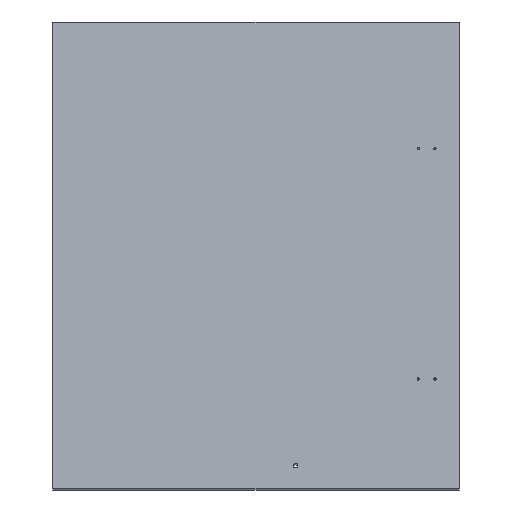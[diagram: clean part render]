
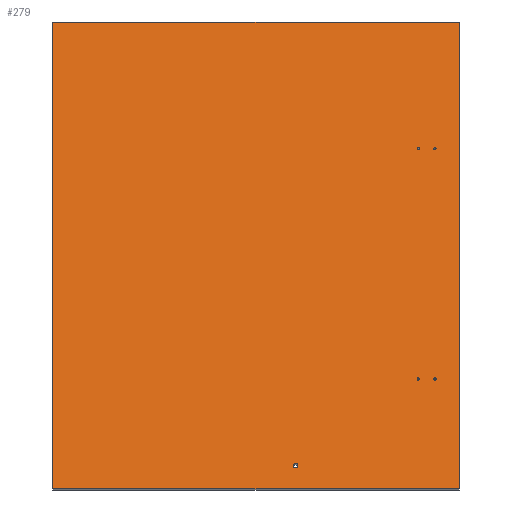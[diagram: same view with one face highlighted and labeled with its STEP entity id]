
A CAD part, front view. The second image highlights one B-rep face of the part: STEP entity #279.
In plain terms, the highlighted planar face has unit normal (0, -0.985, 0.174).
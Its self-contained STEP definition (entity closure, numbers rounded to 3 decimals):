
#37=CARTESIAN_POINT('',(2569.,11.481,244.515));
#38=VERTEX_POINT('',#37);
#45=CARTESIAN_POINT('',(1403.886,11.481,244.515));
#46=VERTEX_POINT('',#45);
#47=CARTESIAN_POINT('',(1403.886,11.481,244.515));
#48=DIRECTION('',(1.0,0.0,0.0));
#49=VECTOR('',#48,1.);
#50=LINE('',#47,#49);
#51=EDGE_CURVE('',#46,#38,#50,.T.);
#75=CARTESIAN_POINT('',(2569.,247.122,1580.899));
#76=VERTEX_POINT('',#75);
#83=CARTESIAN_POINT('',(2569.,11.481,244.515));
#84=DIRECTION('',(0.,0.174,0.985));
#85=VECTOR('',#84,1.);
#86=LINE('',#83,#85);
#87=EDGE_CURVE('',#38,#76,#86,.T.);
#106=CARTESIAN_POINT('',(1403.886,247.122,1580.899));
#107=VERTEX_POINT('',#106);
#114=CARTESIAN_POINT('',(2569.,247.122,1580.899));
#115=DIRECTION('',(-1.0,0.,0.));
#116=VECTOR('',#115,1.);
#117=LINE('',#114,#116);
#118=EDGE_CURVE('',#76,#107,#117,.T.);
#136=CARTESIAN_POINT('',(1403.886,247.122,1580.899));
#137=DIRECTION('',(0.,-0.174,-0.985));
#138=VECTOR('',#137,1.);
#139=LINE('',#136,#138);
#140=EDGE_CURVE('',#107,#46,#139,.T.);
#213=CARTESIAN_POINT('',(1403.886,11.481,244.515));
#214=DIRECTION('',(0.0,-0.985,0.174));
#215=DIRECTION('',(1.0,0.0,0.0));
#216=AXIS2_PLACEMENT_3D('',#213,#214,#215);
#217=PLANE('',#216);
#218=ORIENTED_EDGE('',*,*,#51,.T.);
#219=ORIENTED_EDGE('',*,*,#87,.T.);
#220=ORIENTED_EDGE('',*,*,#118,.T.);
#221=ORIENTED_EDGE('',*,*,#140,.T.);
#222=EDGE_LOOP('',(#218,#219,#220,#221));
#223=FACE_OUTER_BOUND('',#222,.T.);
#224=CARTESIAN_POINT('',(2454.3,66.788,558.176));
#225=VERTEX_POINT('',#224);
#226=CARTESIAN_POINT('',(2451.0,66.788,558.176));
#227=DIRECTION('',(0.0,0.985,-0.174));
#228=DIRECTION('',(1.0,0.0,0.0));
#229=AXIS2_PLACEMENT_3D('',#226,#227,#228);
#230=CIRCLE('',#229,3.3);
#231=EDGE_CURVE('',#225,#225,#230,.T.);
#232=ORIENTED_EDGE('',*,*,#231,.T.);
#233=EDGE_LOOP('',(#232));
#234=FACE_BOUND('',#233,.T.);
#235=CARTESIAN_POINT('',(2454.3,183.132,1217.997));
#236=VERTEX_POINT('',#235);
#237=CARTESIAN_POINT('',(2451.0,183.132,1217.997));
#238=DIRECTION('',(0.0,0.985,-0.174));
#239=DIRECTION('',(1.0,0.0,0.0));
#240=AXIS2_PLACEMENT_3D('',#237,#238,#239);
#241=CIRCLE('',#240,3.3);
#242=EDGE_CURVE('',#236,#236,#241,.T.);
#243=ORIENTED_EDGE('',*,*,#242,.T.);
#244=EDGE_LOOP('',(#243));
#245=FACE_BOUND('',#244,.T.);
#246=CARTESIAN_POINT('',(2502.3,66.788,558.176));
#247=VERTEX_POINT('',#246);
#248=CARTESIAN_POINT('',(2499.,66.788,558.176));
#249=DIRECTION('',(0.0,0.985,-0.174));
#250=DIRECTION('',(1.0,0.0,0.0));
#251=AXIS2_PLACEMENT_3D('',#248,#249,#250);
#252=CIRCLE('',#251,3.3);
#253=EDGE_CURVE('',#247,#247,#252,.T.);
#254=ORIENTED_EDGE('',*,*,#253,.T.);
#255=EDGE_LOOP('',(#254));
#256=FACE_BOUND('',#255,.T.);
#257=CARTESIAN_POINT('',(2502.3,183.132,1217.997));
#258=VERTEX_POINT('',#257);
#259=CARTESIAN_POINT('',(2499.,183.132,1217.997));
#260=DIRECTION('',(0.0,0.985,-0.174));
#261=DIRECTION('',(1.0,0.0,0.0));
#262=AXIS2_PLACEMENT_3D('',#259,#260,#261);
#263=CIRCLE('',#262,3.3);
#264=EDGE_CURVE('',#258,#258,#263,.T.);
#265=ORIENTED_EDGE('',*,*,#264,.T.);
#266=EDGE_LOOP('',(#265));
#267=FACE_BOUND('',#266,.T.);
#268=CARTESIAN_POINT('',(2106.5,23.029,310.004));
#269=VERTEX_POINT('',#268);
#270=CARTESIAN_POINT('',(2100.,23.029,310.004));
#271=DIRECTION('',(0.0,0.985,-0.174));
#272=DIRECTION('',(1.0,0.0,0.0));
#273=AXIS2_PLACEMENT_3D('',#270,#271,#272);
#274=CIRCLE('',#273,6.5);
#275=EDGE_CURVE('',#269,#269,#274,.T.);
#276=ORIENTED_EDGE('',*,*,#275,.T.);
#277=EDGE_LOOP('',(#276));
#278=FACE_BOUND('',#277,.T.);
#279=ADVANCED_FACE('',(#223,#234,#245,#256,#267,#278),#217,.T.);
